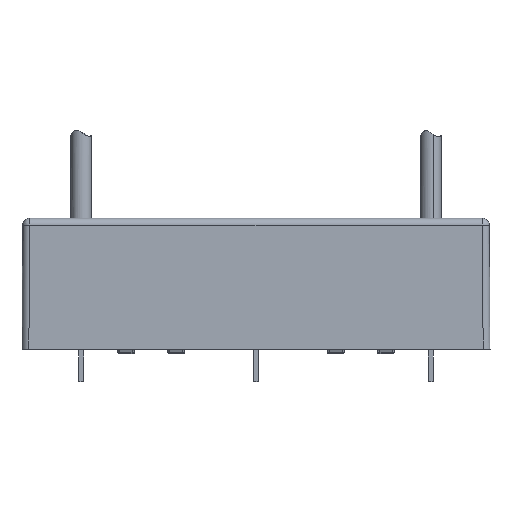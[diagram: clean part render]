
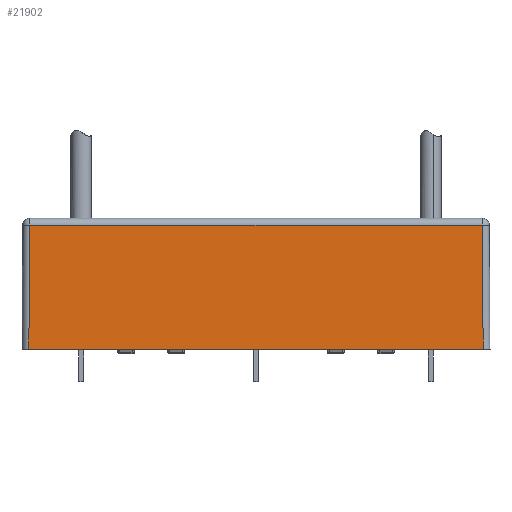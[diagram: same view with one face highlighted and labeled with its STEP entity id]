
A CAD part, top view. The second image highlights one B-rep face of the part: STEP entity #21902.
In plain terms, the highlighted planar face has unit normal (0, 0.006, 1).
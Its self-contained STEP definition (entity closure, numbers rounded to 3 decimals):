
#303 = VECTOR ( 'NONE', #1481, 1000. ) ;
#869 = LINE ( 'NONE', #18889, #16187 ) ;
#1450 = ORIENTED_EDGE ( 'NONE', *, *, #17919, .T. ) ;
#1481 = DIRECTION ( 'NONE',  ( -0.006, 1., -0.006 ) ) ;
#1760 = CARTESIAN_POINT ( 'NONE',  ( 32.899, 8.506, 9.399 ) ) ;
#1772 = VERTEX_POINT ( 'NONE', #1760 ) ;
#2018 = AXIS2_PLACEMENT_3D ( 'NONE', #17910, #3828, #18047 ) ;
#2413 = CARTESIAN_POINT ( 'NONE',  ( -33., -9.506, 9.5 ) ) ;
#3239 = VECTOR ( 'NONE', #20568, 1000. ) ;
#3828 = DIRECTION ( 'NONE',  ( 0., 0.006, 1. ) ) ;
#4720 = CARTESIAN_POINT ( 'NONE',  ( -33., -9.5, 9.5 ) ) ;
#8706 = VERTEX_POINT ( 'NONE', #10567 ) ;
#9170 = LINE ( 'NONE', #22811, #3239 ) ;
#9971 = VECTOR ( 'NONE', #13211, 1000. ) ;
#10567 = CARTESIAN_POINT ( 'NONE',  ( -32.899, 8.506, 9.399 ) ) ;
#10879 = FACE_OUTER_BOUND ( 'NONE', #17555, .T. ) ;
#12303 = ORIENTED_EDGE ( 'NONE', *, *, #13859, .T. ) ;
#13211 = DIRECTION ( 'NONE',  ( -0.006, -1., 0.006 ) ) ;
#13820 = EDGE_CURVE ( 'NONE', #8706, #26216, #22970, .T. ) ;
#13859 = EDGE_CURVE ( 'NONE', #26216, #23089, #9170, .T. ) ;
#16187 = VECTOR ( 'NONE', #28659, 1000. ) ;
#16393 = ORIENTED_EDGE ( 'NONE', *, *, #13820, .T. ) ;
#17555 = EDGE_LOOP ( 'NONE', ( #21841, #1450, #16393, #12303 ) ) ;
#17672 = LINE ( 'NONE', #29285, #303 ) ;
#17910 = CARTESIAN_POINT ( 'NONE',  ( -34., -9.5, 9.5 ) ) ;
#17919 = EDGE_CURVE ( 'NONE', #1772, #8706, #869, .T. ) ;
#18047 = DIRECTION ( 'NONE',  ( 0., -1., 0.006 ) ) ;
#18889 = CARTESIAN_POINT ( 'NONE',  ( -34., 8.506, 9.399 ) ) ;
#19681 = CARTESIAN_POINT ( 'NONE',  ( 33., -9.5, 9.5 ) ) ;
#20568 = DIRECTION ( 'NONE',  ( 1., 0., 0. ) ) ;
#21841 = ORIENTED_EDGE ( 'NONE', *, *, #27932, .T. ) ;
#21902 = ADVANCED_FACE ( 'NONE', ( #10879 ), #29368, .T. ) ;
#22811 = CARTESIAN_POINT ( 'NONE',  ( -34., -9.5, 9.5 ) ) ;
#22970 = LINE ( 'NONE', #2413, #9971 ) ;
#23089 = VERTEX_POINT ( 'NONE', #19681 ) ;
#26216 = VERTEX_POINT ( 'NONE', #4720 ) ;
#27932 = EDGE_CURVE ( 'NONE', #23089, #1772, #17672, .T. ) ;
#28659 = DIRECTION ( 'NONE',  ( -1., 0., 0. ) ) ;
#29285 = CARTESIAN_POINT ( 'NONE',  ( 32.998, -9.126, 9.498 ) ) ;
#29368 = PLANE ( 'NONE',  #2018 ) ;
